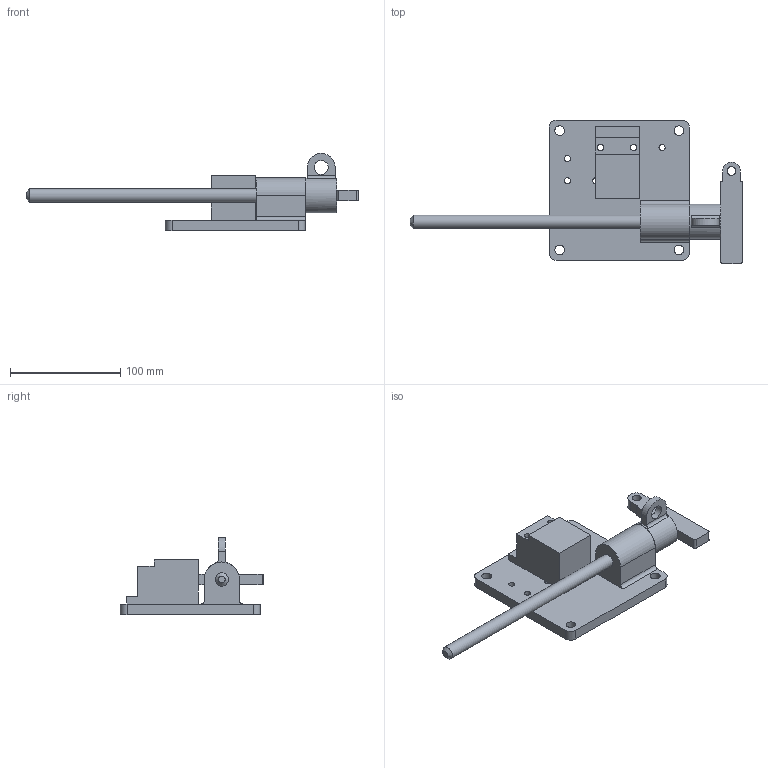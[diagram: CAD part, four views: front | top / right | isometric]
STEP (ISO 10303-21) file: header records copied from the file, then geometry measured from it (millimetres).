
FILE_DESCRIPTION(/* description */ (''),/* implementation_level */ '2;1');
FILE_NAME(/* name */ 'C:\Users\rcarver\Desktop\Tru-LOK pin\Ford-FCA\With Switch\SP12Y250TY00201.stp',/* time_stamp */ '2016-06-21T11:09:50-04:00',/* author */ ('rcarver'),/* organization */ (''),/* preprocessor_version */ 'ST-DEVELOPER v16.5',/* originating_system */ 'Autodesk Inventor 2017',/* authorisation */ '');
FILE_SCHEMA (('AUTOMOTIVE_DESIGN { 1 0 10303 214 3 1 1 }'));
Length unit declared in the file: millimetre
Products named in the file (1): SP12Y250TY00201
Bounding box: 300.62 x 130.18 x 69.85 mm (x, y, z)
Volume: 348173.1 mm3; surface area: 75244.7 mm2
Topology: 3 solids, 3 shells, 69 faces, 193 edges, 132 vertices
Faces by surface type: plane 37, cylinder 31, cone 1
Full cylindrical faces by diameter (mm): 5.588 x2, 5.59 x6, 7.94 x1, 8.74 x4, 12 x1, 12.7 x1, 31.75 x1
Entity records: 2196 total; most frequent: DIRECTION 368, CARTESIAN_POINT 346, ORIENTED_EDGE 320, EDGE_CURVE 160, AXIS2_PLACEMENT_3D 138, EDGE_LOOP 116, VERTEX_POINT 116, LINE 92
